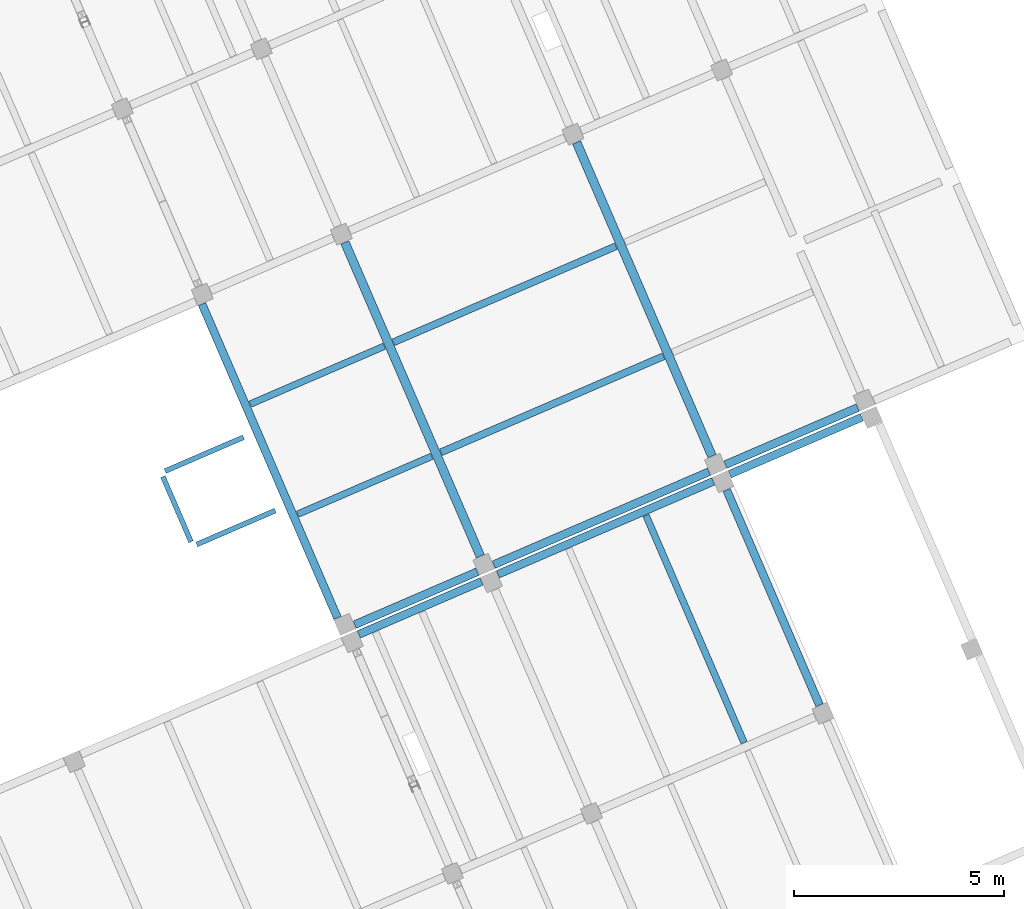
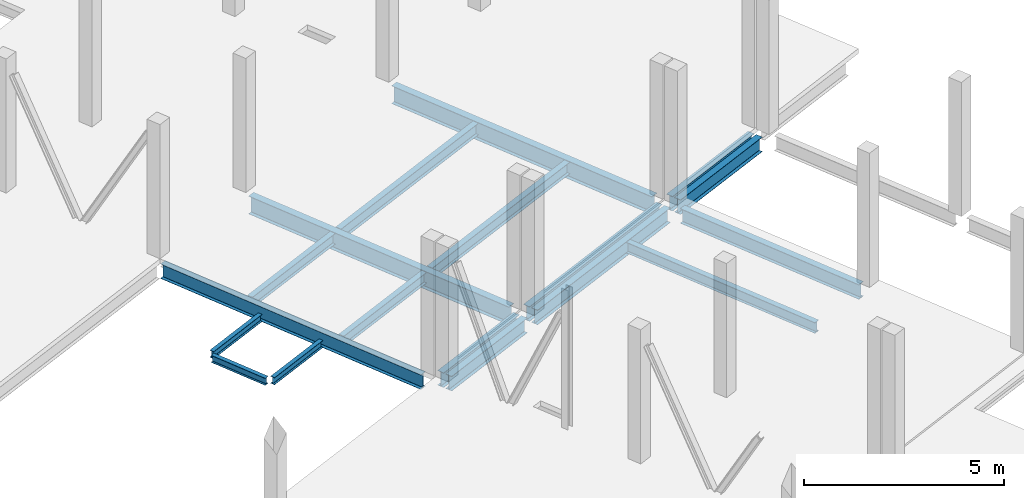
# One storey, part 18 of 24: 18 beams.
"""IFC4 building model written with IfcOpenShell, lengths in metres."""

from ifc_helpers import new_model, entity, si_unit, converted_unit, derived_unit, direction, frame, origin, place, context, subcontext, project, spatial, line, arc, indexed_curve, outline, extrude, source, transform, mapped, material, type_object, type_shapes, element, save


model = new_model("IFC4")

# Units and contexts
model_context = context("Model", 3, precision=1e-05, world=origin(), true_north=direction((6.12323399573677e-17, 1.0)))
body_context = subcontext(model_context, "Body", "Model", "MODEL_VIEW")
ifc_project = project(units=[si_unit("LENGTHUNIT", "METRE"), si_unit("AREAUNIT", "SQUARE_METRE"), si_unit("VOLUMEUNIT", "CUBIC_METRE"), converted_unit("PLANEANGLEUNIT", "DEGREE", entity("IfcPlaneAngleMeasure", 0.0174532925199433), si_unit("PLANEANGLEUNIT", "RADIAN"), dimensions=[0, 0, 0, 0, 0, 0, 0]), si_unit("MASSUNIT", "GRAM", prefix="KILO"), derived_unit("MOMENTOFINERTIAUNIT", [(si_unit("LENGTHUNIT", "METRE"), 4)]), derived_unit("LINEARFORCEUNIT", [(si_unit("MASSUNIT", "GRAM", prefix="KILO"), 1), (si_unit("TIMEUNIT", "SECOND"), -2)]), derived_unit("WARPINGCONSTANTUNIT", [(si_unit("LENGTHUNIT", "METRE"), 6)]), derived_unit("THERMALTRANSMITTANCEUNIT", [(si_unit("MASSUNIT", "GRAM", prefix="KILO"), 1), (si_unit("THERMODYNAMICTEMPERATUREUNIT", "KELVIN"), -1), (si_unit("TIMEUNIT", "SECOND"), -3)]), derived_unit("USERDEFINED", [(si_unit("MASSUNIT", "GRAM", prefix="KILO"), 1), (si_unit("TIMEUNIT", "SECOND"), -2), (si_unit("THERMODYNAMICTEMPERATUREUNIT", "KELVIN"), -1)]), derived_unit("THERMALRESISTANCEUNIT", [(si_unit("MASSUNIT", "GRAM", prefix="KILO"), -1), (si_unit("TIMEUNIT", "SECOND"), 3), (si_unit("THERMODYNAMICTEMPERATUREUNIT", "KELVIN"), 1)])], contexts=[model_context])

# Site, building, storey
site_placement = place(None, origin())
site = spatial("IfcSite", under=ifc_project, at=site_placement, Name="Default", CompositionType="ELEMENT")
building_placement = place(site_placement, frame((12.6613425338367, -82.5732315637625, 317.15), z_axis=(0.0, 0.0, 1.0), x_axis=(-0.396377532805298, 0.918087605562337, 0.0)))
building = spatial("IfcBuilding", under=site, at=building_placement, Name="CESFAM Coyhaique", CompositionType="ELEMENT")
storey_placement = place(building_placement, frame((0.0, 0.0, 4.20000000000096)))
storey = spatial("IfcBuildingStorey", under=building, at=storey_placement, Name="Nivel 2", CompositionType="ELEMENT", Elevation=4.20000000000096)

# Beams
ifc_material = material(Name="Steel, 45-345", Category="Metal")
beam_type_1 = type_object("IfcBeamType", Name="M_W Shapes:W450X190mm", PredefinedType="BEAM", material=ifc_material)
shared_shape_1 = source(origin(), body_context, "Body", "SweptSolid", [
    extrude(outline(indexed_curve([(-0.0949999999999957, -0.225000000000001), (0.0950000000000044, -0.225000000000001), (0.0950000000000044, -0.21535), (0.0105700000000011, -0.21535), (0.00516063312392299, -0.213109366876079), (0.0029200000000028, -0.2077), (0.0029200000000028, 0.207699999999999), (0.00516063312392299, 0.213109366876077), (0.0105700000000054, 0.21535), (0.0950000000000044, 0.21535), (0.0950000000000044, 0.224999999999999), (-0.0949999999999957, 0.224999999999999), (-0.0949999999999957, 0.21535), (-0.0105699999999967, 0.215349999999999), (-0.00516063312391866, 0.213109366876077), (-0.00291999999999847, 0.207699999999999), (-0.00291999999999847, -0.2077), (-0.00516063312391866, -0.213109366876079), (-0.0105699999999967, -0.21535), (-0.0949999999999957, -0.21535)], segments=[line(1, 2, 3, 4), arc(4, 5, 6), line(6, 7), arc(7, 8, 9), line(9, 10, 11, 12, 13, 14), arc(14, 15, 16), line(16, 17), arc(17, 18, 19), line(19, 20, 1)], self_intersect=False)), frame((34.868853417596, -14.9844495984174, 3.82500000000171), z_axis=(0.0, 1.0, 0.0), x_axis=(-1.0, 0.0, 0.0)), (0.0, 0.0, 1.0), 3.1746),
])
type_shapes(beam_type_1, [shared_shape_1])
beam_1_placement = place(storey_placement, frame((0.0, 0.0, -4.20000000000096)))
element("IfcBeam", 1, at=beam_1_placement, inside=storey, type_object=beam_type_1, Name="M_W Shapes:W450X190mm", ObjectType="M_W Shapes:W450X190mm", PredefinedType="BEAM", context=body_context, shape_type="MappedRepresentation", body=[
    mapped(shared_shape_1, transform((0.0, 0.0, 0.0), scale=1.0)),
])
beam_type_2 = type_object("IfcBeamType", Name="M_W Shapes:W450X190mm", PredefinedType="BEAM", material=ifc_material)
shared_shape_2 = source(origin(), body_context, "Body", "SweptSolid", [
    extrude(outline(indexed_curve([(-0.225, -0.0950000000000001), (-0.215350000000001, -0.0949999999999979), (-0.21535, -0.0105699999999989), (-0.213109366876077, -0.00516063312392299), (-0.2077, -0.00291999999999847), (0.207699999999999, -0.00291999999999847), (0.213109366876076, -0.00516063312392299), (0.215349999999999, -0.0105699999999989), (0.215349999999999, -0.0950000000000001), (0.225, -0.0950000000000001), (0.225, 0.0950000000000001), (0.215349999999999, 0.0950000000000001), (0.215349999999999, 0.0105700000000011), (0.213109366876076, 0.00516063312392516), (0.207699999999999, 0.00292000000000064), (-0.2077, 0.00292000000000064), (-0.213109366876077, 0.00516063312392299), (-0.215350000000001, 0.0105700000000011), (-0.215350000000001, 0.0950000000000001), (-0.225, 0.0950000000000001)], segments=[line(1, 2, 3), arc(3, 4, 5), line(5, 6), arc(6, 7, 8), line(8, 9, 10, 11, 12, 13), arc(13, 14, 15), line(15, 16), arc(16, 17, 18), line(18, 19, 20, 1)], self_intersect=False)), frame((35.4315534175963, -11.4971495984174, 3.82500000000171), z_axis=(1.0, 0.0, 0.0), x_axis=(0.0, 0.0, -1.0)), (0.0, 0.0, 1.0), 8.1246),
])
type_shapes(beam_type_2, [shared_shape_2])
beam_2_placement = place(storey_placement, frame((0.0, 0.0, -4.20000000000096)))
element("IfcBeam", 2, at=beam_2_placement, inside=storey, type_object=beam_type_2, Name="M_W Shapes:W450X190mm", ObjectType="M_W Shapes:W450X190mm", PredefinedType="BEAM", context=body_context, shape_type="MappedRepresentation", body=[
    mapped(shared_shape_2, transform((0.0, 0.0, 0.0), scale=1.0)),
])
beam_type_3 = type_object("IfcBeamType", Name="M_W Shapes:W550X210mm", PredefinedType="BEAM", material=ifc_material)
shared_shape_3 = source(origin(), body_context, "Body", "SweptSolid", [
    extrude(outline(indexed_curve([(-0.274999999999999, -0.105000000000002), (-0.26535, -0.105000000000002), (-0.265349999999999, -0.0105700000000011), (-0.263109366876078, -0.00516063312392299), (-0.2577, -0.0029200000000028), (0.2577, -0.0029200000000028), (0.263109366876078, -0.00516063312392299), (0.26535, -0.0105700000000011), (0.26535, -0.105000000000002), (0.275, -0.105000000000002), (0.275, 0.104999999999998), (0.26535, 0.104999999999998), (0.265349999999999, 0.0105699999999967), (0.263109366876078, 0.00516063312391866), (0.2577, 0.00291999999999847), (-0.2577, 0.00291999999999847), (-0.263109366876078, 0.00516063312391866), (-0.26535, 0.0105699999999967), (-0.26535, 0.104999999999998), (-0.274999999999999, 0.104999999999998)], segments=[line(1, 2, 3), arc(3, 4, 5), line(5, 6), arc(6, 7, 8), line(8, 9, 10, 11, 12, 13), arc(13, 14, 15), line(15, 16), arc(16, 17, 18), line(18, 19, 20, 1)], self_intersect=False)), frame((35.4315534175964, -21.197149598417, 3.77500000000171), z_axis=(1.0, 0.0, 0.0), x_axis=(0.0, 0.0, -1.0)), (0.0, 0.0, 1.0), 8.1246),
])
type_shapes(beam_type_3, [shared_shape_3])
beam_3_placement = place(storey_placement, frame((0.0, 0.0, -4.20000000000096)))
element("IfcBeam", 3, at=beam_3_placement, inside=storey, type_object=beam_type_3, Name="M_W Shapes:W550X210mm", ObjectType="M_W Shapes:W550X210mm", PredefinedType="BEAM", context=body_context, shape_type="MappedRepresentation", body=[
    mapped(shared_shape_3, transform((0.0, 0.0, 0.0), scale=1.0)),
])
beam_type_4 = type_object("IfcBeamType", Name="M_W Shapes:W450X190mm", PredefinedType="BEAM", material=ifc_material)
shared_shape_4 = source(origin(), body_context, "Body", "SweptSolid", [
    extrude(outline(indexed_curve([(-0.225, -0.0949999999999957), (-0.215350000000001, -0.0949999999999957), (-0.21535, -0.0105699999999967), (-0.213109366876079, -0.00516063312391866), (-0.2077, -0.00291999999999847), (0.207699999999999, -0.00291999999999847), (0.213109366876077, -0.00516063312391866), (0.215349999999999, -0.0105699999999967), (0.215349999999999, -0.0949999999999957), (0.225, -0.0949999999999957), (0.225, 0.0950000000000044), (0.215349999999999, 0.0950000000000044), (0.215349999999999, 0.0105700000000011), (0.213109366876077, 0.00516063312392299), (0.207699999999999, 0.0029200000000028), (-0.2077, 0.0029200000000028), (-0.213109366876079, 0.00516063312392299), (-0.215350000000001, 0.0105700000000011), (-0.215350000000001, 0.0950000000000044), (-0.225, 0.0950000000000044)], segments=[line(1, 2, 3), arc(3, 4, 5), line(5, 6), arc(6, 7, 8), line(8, 9, 10, 11, 12, 13), arc(13, 14, 15), line(15, 16), arc(16, 17, 18), line(18, 19, 20, 1)], self_intersect=False)), frame((28.9815534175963, -21.197149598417, 3.82500000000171), z_axis=(1.0, 0.0, 0.0), x_axis=(0.0, 0.0, -1.0)), (0.0, 0.0, 1.0), 5.5746),
])
type_shapes(beam_type_4, [shared_shape_4])
beam_4_placement = place(storey_placement, frame((0.0, 0.0, -4.20000000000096)))
element("IfcBeam", 4, at=beam_4_placement, inside=storey, type_object=beam_type_4, Name="M_W Shapes:W450X190mm", ObjectType="M_W Shapes:W450X190mm", PredefinedType="BEAM", context=body_context, shape_type="MappedRepresentation", body=[
    mapped(shared_shape_4, transform((0.0, 0.0, 0.0), scale=1.0)),
])
beam_type_5 = type_object("IfcBeamType", Name="M_W Shapes:W450X190mm", PredefinedType="BEAM", material=ifc_material)
shared_shape_5 = source(origin(), body_context, "Body", "SweptSolid", [
    extrude(outline(indexed_curve([(-0.0950000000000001, -0.225000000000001), (0.0950000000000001, -0.225000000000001), (0.0950000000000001, -0.21535), (0.0105699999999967, -0.21535), (0.00516063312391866, -0.213109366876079), (0.00291999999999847, -0.2077), (0.00291999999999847, 0.207699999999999), (0.00516063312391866, 0.213109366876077), (0.0105700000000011, 0.21535), (0.0950000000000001, 0.21535), (0.0950000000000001, 0.224999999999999), (-0.0950000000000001, 0.224999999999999), (-0.0950000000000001, 0.21535), (-0.0105700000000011, 0.215349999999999), (-0.00516063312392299, 0.213109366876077), (-0.0029200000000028, 0.207699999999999), (-0.0029200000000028, -0.2077), (-0.00516063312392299, -0.213109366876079), (-0.0105700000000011, -0.21535), (-0.0950000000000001, -0.21535)], segments=[line(1, 2, 3, 4), arc(4, 5, 6), line(6, 7), arc(7, 8, 9), line(9, 10, 11, 12, 13, 14), arc(14, 15, 16), line(16, 17), arc(17, 18, 19), line(19, 20, 1)], self_intersect=False)), frame((34.8688534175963, -24.8344495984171, 3.82500000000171), z_axis=(0.0, 1.0, 0.0), x_axis=(-1.0, 0.0, 0.0)), (0.0, 0.0, 1.0), 3.4246),
])
type_shapes(beam_type_5, [shared_shape_5])
beam_5_placement = place(storey_placement, frame((0.0, 0.0, -4.20000000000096)))
element("IfcBeam", 5, at=beam_5_placement, inside=storey, type_object=beam_type_5, Name="M_W Shapes:W450X190mm", ObjectType="M_W Shapes:W450X190mm", PredefinedType="BEAM", context=body_context, shape_type="MappedRepresentation", body=[
    mapped(shared_shape_5, transform((0.0, 0.0, 0.0), scale=1.0)),
])
beam_type_6 = type_object("IfcBeamType", Name="M_W Shapes:W450X190mm", PredefinedType="BEAM", material=ifc_material)
shared_shape_6 = source(origin(), body_context, "Body", "SweptSolid", [
    extrude(outline(indexed_curve([(-0.0950000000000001, -0.225000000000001), (0.0950000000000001, -0.225000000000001), (0.0950000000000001, -0.21535), (0.0105699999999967, -0.21535), (0.00516063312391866, -0.213109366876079), (0.00291999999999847, -0.2077), (0.00291999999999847, 0.207699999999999), (0.00516063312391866, 0.213109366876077), (0.0105699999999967, 0.21535), (0.0950000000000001, 0.21535), (0.0950000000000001, 0.224999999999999), (-0.0950000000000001, 0.224999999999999), (-0.0950000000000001, 0.21535), (-0.0105700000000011, 0.215349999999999), (-0.00516063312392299, 0.213109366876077), (-0.0029200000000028, 0.207699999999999), (-0.0029200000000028, -0.2077), (-0.00516063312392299, -0.213109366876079), (-0.0105700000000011, -0.21535), (-0.0950000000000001, -0.21535)], segments=[line(1, 2, 3, 4), arc(4, 5, 6), line(6, 7), arc(7, 8, 9), line(9, 10, 11, 12, 13, 14), arc(14, 15, 16), line(16, 17), arc(17, 18, 19), line(19, 20, 1)], self_intersect=False)), frame((34.8688534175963, -20.9844495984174, 3.82500000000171), z_axis=(0.0, 1.0, 0.0), x_axis=(-1.0, 0.0, 0.0)), (0.0, 0.0, 1.0), 5.5746),
])
type_shapes(beam_type_6, [shared_shape_6])
beam_6_placement = place(storey_placement, frame((0.0, 0.0, -4.20000000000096)))
element("IfcBeam", 6, at=beam_6_placement, inside=storey, type_object=beam_type_6, Name="M_W Shapes:W450X190mm", ObjectType="M_W Shapes:W450X190mm", PredefinedType="BEAM", context=body_context, shape_type="MappedRepresentation", body=[
    mapped(shared_shape_6, transform((0.0, 0.0, 0.0), scale=1.0)),
])
beam_type_7 = type_object("IfcBeamType", Name="M_W Shapes:W550X210mm", PredefinedType="BEAM", material=ifc_material)
shared_shape_7 = source(origin(), body_context, "Body", "SweptSolid", [
    extrude(outline(indexed_curve([(-0.274999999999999, -0.104999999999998), (-0.26535, -0.104999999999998), (-0.26535, -0.0105699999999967), (-0.263109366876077, -0.00516063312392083), (-0.2577, -0.0029199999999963), (0.2577, -0.0029199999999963), (0.263109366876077, -0.00516063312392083), (0.26535, -0.0105699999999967), (0.26535, -0.104999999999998), (0.275, -0.104999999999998), (0.275, 0.105000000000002), (0.26535, 0.105000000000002), (0.26535, 0.0105700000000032), (0.263109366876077, 0.00516063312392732), (0.2577, 0.0029200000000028), (-0.2577, 0.0029200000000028), (-0.263109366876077, 0.00516063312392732), (-0.26535, 0.0105700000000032), (-0.26535, 0.105000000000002), (-0.274999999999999, 0.105000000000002)], segments=[line(1, 2, 3), arc(3, 4, 5), line(5, 6), arc(6, 7, 8), line(8, 9, 10, 11, 12, 13), arc(13, 14, 15), line(15, 16), arc(16, 17, 18), line(18, 19, 20, 1)], self_intersect=False)), frame((35.4315534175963, -15.1971495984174, 3.77500000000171), z_axis=(1.0, 0.0, 0.0), x_axis=(0.0, 0.0, -1.0)), (0.0, 0.0, 1.0), 8.1246),
])
type_shapes(beam_type_7, [shared_shape_7])
beam_7_placement = place(storey_placement, frame((0.0, 0.0, -4.20000000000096)))
element("IfcBeam", 7, at=beam_7_placement, inside=storey, type_object=beam_type_7, Name="M_W Shapes:W550X210mm", ObjectType="M_W Shapes:W550X210mm", PredefinedType="BEAM", context=body_context, shape_type="MappedRepresentation", body=[
    mapped(shared_shape_7, transform((0.0, 0.0, 0.0), scale=1.0)),
])
beam_type_8 = type_object("IfcBeamType", Name="M_W Shapes:W450X190mm", PredefinedType="BEAM", material=ifc_material)
shared_shape_8 = source(origin(), body_context, "Body", "SweptSolid", [
    extrude(outline(indexed_curve([(-0.0949999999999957, -0.225000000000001), (0.0950000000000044, -0.225000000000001), (0.0950000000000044, -0.21535), (0.0105700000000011, -0.21535), (0.00516063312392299, -0.213109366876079), (0.0029200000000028, -0.2077), (0.0029200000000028, 0.207699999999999), (0.00516063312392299, 0.213109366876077), (0.0105700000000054, 0.21535), (0.0950000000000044, 0.21535), (0.0950000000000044, 0.224999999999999), (-0.0949999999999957, 0.224999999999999), (-0.0949999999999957, 0.21535), (-0.0105699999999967, 0.215349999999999), (-0.00516063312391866, 0.213109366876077), (-0.00291999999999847, 0.207699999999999), (-0.00291999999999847, -0.2077), (-0.00516063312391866, -0.213109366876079), (-0.0105699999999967, -0.21535), (-0.0949999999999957, -0.21535)], segments=[line(1, 2, 3, 4), arc(4, 5, 6), line(6, 7), arc(7, 8, 9), line(9, 10, 11, 12, 13, 14), arc(14, 15, 16), line(16, 17), arc(17, 18, 19), line(19, 20, 1)], self_intersect=False)), frame((35.1188534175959, -14.9844495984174, 3.82500000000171), z_axis=(0.0, 1.0, 0.0), x_axis=(-1.0, 0.0, 0.0)), (0.0, 0.0, 1.0), 3.1746),
])
type_shapes(beam_type_8, [shared_shape_8])
beam_8_placement = place(storey_placement, frame((0.0, 0.0, -4.20000000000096)))
element("IfcBeam", 8, at=beam_8_placement, inside=storey, type_object=beam_type_8, Name="M_W Shapes:W450X190mm", ObjectType="M_W Shapes:W450X190mm", PredefinedType="BEAM", context=body_context, shape_type="MappedRepresentation", body=[
    mapped(shared_shape_8, transform((0.0, 0.0, 0.0), scale=1.0)),
])
beam_type_9 = type_object("IfcBeamType", Name="M_W Shapes:W450X190mm", PredefinedType="BEAM", material=ifc_material)
shared_shape_9 = source(origin(), body_context, "Body", "SweptSolid", [
    extrude(outline(indexed_curve([(-0.0949999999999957, -0.225000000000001), (0.0950000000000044, -0.225000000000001), (0.0950000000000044, -0.21535), (0.0105700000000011, -0.21535), (0.00516063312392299, -0.213109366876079), (0.0029200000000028, -0.2077), (0.0029200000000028, 0.207699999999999), (0.00516063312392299, 0.213109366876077), (0.0105700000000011, 0.21535), (0.0950000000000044, 0.21535), (0.0950000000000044, 0.224999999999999), (-0.0949999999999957, 0.224999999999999), (-0.0949999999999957, 0.21535), (-0.0105699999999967, 0.215349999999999), (-0.00516063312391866, 0.213109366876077), (-0.00291999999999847, 0.207699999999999), (-0.00291999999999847, -0.2077), (-0.00516063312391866, -0.213109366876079), (-0.0105699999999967, -0.21535), (-0.0949999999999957, -0.21535)], segments=[line(1, 2, 3, 4), arc(4, 5, 6), line(6, 7), arc(7, 8, 9), line(9, 10, 11, 12, 13, 14), arc(14, 15, 16), line(16, 17), arc(17, 18, 19), line(19, 20, 1)], self_intersect=False)), frame((35.1188534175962, -20.9844495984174, 3.82500000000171), z_axis=(0.0, 1.0, 0.0), x_axis=(-1.0, 0.0, 0.0)), (0.0, 0.0, 1.0), 5.5746),
])
type_shapes(beam_type_9, [shared_shape_9])
beam_9_placement = place(storey_placement, frame((0.0, 0.0, -4.20000000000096)))
element("IfcBeam", 9, at=beam_9_placement, inside=storey, type_object=beam_type_9, Name="M_W Shapes:W450X190mm", ObjectType="M_W Shapes:W450X190mm", PredefinedType="BEAM", context=body_context, shape_type="MappedRepresentation", body=[
    mapped(shared_shape_9, transform((0.0, 0.0, 0.0), scale=1.0)),
])
beam_type_10 = type_object("IfcBeamType", Name="M_W Shapes:W450X190mm", PredefinedType="BEAM", material=ifc_material)
shared_shape_10 = source(origin(), body_context, "Body", "SweptSolid", [
    extrude(outline(indexed_curve([(-0.0950000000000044, -0.225000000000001), (0.0949999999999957, -0.225000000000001), (0.0949999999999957, -0.21535), (0.0105699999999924, -0.21535), (0.00516063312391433, -0.213109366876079), (0.00291999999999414, -0.2077), (0.00291999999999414, 0.207699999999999), (0.00516063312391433, 0.213109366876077), (0.0105699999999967, 0.21535), (0.0949999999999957, 0.21535), (0.0949999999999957, 0.224999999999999), (-0.0950000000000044, 0.224999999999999), (-0.0950000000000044, 0.21535), (-0.0105700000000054, 0.215349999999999), (-0.00516063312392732, 0.213109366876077), (-0.00292000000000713, 0.207699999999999), (-0.00292000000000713, -0.2077), (-0.00516063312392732, -0.213109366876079), (-0.0105700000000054, -0.21535), (-0.0950000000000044, -0.21535)], segments=[line(1, 2, 3, 4), arc(4, 5, 6), line(6, 7), arc(7, 8, 9), line(9, 10, 11, 12, 13, 14), arc(14, 15, 16), line(16, 17), arc(17, 18, 19), line(19, 20, 1)], self_intersect=False)), frame((35.1188534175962, -24.8344495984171, 3.82500000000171), z_axis=(0.0, 1.0, 0.0), x_axis=(-1.0, 0.0, 0.0)), (0.0, 0.0, 1.0), 3.4246),
])
type_shapes(beam_type_10, [shared_shape_10])
beam_10_placement = place(storey_placement, frame((0.0, 0.0, -4.20000000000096)))
element("IfcBeam", 10, at=beam_10_placement, inside=storey, type_object=beam_type_10, Name="M_W Shapes:W450X190mm", ObjectType="M_W Shapes:W450X190mm", PredefinedType="BEAM", context=body_context, shape_type="MappedRepresentation", body=[
    mapped(shared_shape_10, transform((0.0, 0.0, 0.0), scale=1.0)),
])
beam_type_11 = type_object("IfcBeamType", Name="M_W Shapes:W330X160mm", PredefinedType="BEAM", material=ifc_material)
shared_shape_11 = source(origin(), body_context, "Body", "SweptSolid", [
    extrude(outline(indexed_curve([(-0.0800000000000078, -0.165), (0.0799999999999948, -0.165), (0.0799999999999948, -0.15535), (0.0105699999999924, -0.155349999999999), (0.00516063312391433, -0.153109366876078), (0.00291999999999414, -0.1477), (0.00291999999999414, 0.1477), (0.00516063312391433, 0.153109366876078), (0.0105699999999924, 0.15535), (0.0799999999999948, 0.15535), (0.0799999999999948, 0.164999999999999), (-0.0800000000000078, 0.164999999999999), (-0.0800000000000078, 0.15535), (-0.0105700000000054, 0.155349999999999), (-0.00516063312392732, 0.153109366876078), (-0.00292000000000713, 0.1477), (-0.00292000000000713, -0.1477), (-0.00516063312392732, -0.153109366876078), (-0.0105700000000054, -0.15535), (-0.0800000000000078, -0.15535)], segments=[line(1, 2, 3, 4), arc(4, 5, 6), line(6, 7), arc(7, 8, 9), line(9, 10, 11, 12, 13, 14), arc(14, 15, 16), line(16, 17), arc(17, 18, 19), line(19, 20, 1)], self_intersect=False)), frame((38.068777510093, -15.0794495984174, 3.88500000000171), z_axis=(0.0, 1.0, 0.0), x_axis=(-1.0, 0.0, 0.0)), (0.0, 0.0, 1.0), 3.4746),
])
type_shapes(beam_type_11, [shared_shape_11])
beam_11_placement = place(storey_placement, frame((0.0, 0.0, -4.20000000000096)))
element("IfcBeam", 11, at=beam_11_placement, inside=storey, type_object=beam_type_11, Name="M_W Shapes:W330X160mm", ObjectType="M_W Shapes:W330X160mm", PredefinedType="BEAM", context=body_context, shape_type="MappedRepresentation", body=[
    mapped(shared_shape_11, transform((0.0, 0.0, 0.0), scale=1.0)),
])
beam_type_12 = type_object("IfcBeamType", Name="M_W Shapes:W360X170mm", PredefinedType="BEAM", material=ifc_material)
shared_shape_12 = source(origin(), body_context, "Body", "SweptSolid", [
    extrude(outline(indexed_curve([(-0.084999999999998, -0.180000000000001), (0.0850000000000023, -0.180000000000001), (0.0850000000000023, -0.17035), (0.0105700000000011, -0.17035), (0.00516063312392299, -0.168109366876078), (0.0029200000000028, -0.1627), (0.0029200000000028, 0.162699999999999), (0.00516063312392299, 0.168109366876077), (0.0105700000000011, 0.17035), (0.0850000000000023, 0.17035), (0.0850000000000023, 0.179999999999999), (-0.084999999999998, 0.179999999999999), (-0.084999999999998, 0.17035), (-0.0105699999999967, 0.170349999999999), (-0.00516063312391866, 0.168109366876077), (-0.00291999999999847, 0.1627), (-0.00291999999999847, -0.1627), (-0.00516063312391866, -0.168109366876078), (-0.0105699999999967, -0.17035), (-0.084999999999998, -0.17035)], segments=[line(1, 2, 3, 4), arc(4, 5, 6), line(6, 7), arc(7, 8, 9), line(9, 10, 11, 12, 13, 14), arc(14, 15, 16), line(16, 17), arc(17, 18, 19), line(19, 20, 1)], self_intersect=False)), frame((38.068777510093, -21.0794495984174, 3.87000000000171), z_axis=(0.0, 1.0, 0.0), x_axis=(-1.0, 0.0, 0.0)), (0.0, 0.0, 1.0), 5.7646),
])
type_shapes(beam_type_12, [shared_shape_12])
beam_12_placement = place(storey_placement, frame((0.0, 0.0, -4.20000000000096)))
element("IfcBeam", 12, at=beam_12_placement, inside=storey, type_object=beam_type_12, Name="M_W Shapes:W360X170mm", ObjectType="M_W Shapes:W360X170mm", PredefinedType="BEAM", context=body_context, shape_type="MappedRepresentation", body=[
    mapped(shared_shape_12, transform((0.0, 0.0, 0.0), scale=1.0)),
])
beam_type_13 = type_object("IfcBeamType", Name="M_W Shapes:W330X160mm", PredefinedType="BEAM", material=ifc_material)
shared_shape_13 = source(origin(), body_context, "Body", "SweptSolid", [
    extrude(outline(indexed_curve([(-0.0799999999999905, -0.165), (0.0800000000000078, -0.165), (0.0800000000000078, -0.15535), (0.0105700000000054, -0.15535), (0.00516063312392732, -0.153109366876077), (0.00292000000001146, -0.1477), (0.0029200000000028, 0.1477), (0.00516063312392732, 0.153109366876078), (0.0105700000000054, 0.15535), (0.0800000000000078, 0.15535), (0.0800000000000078, 0.164999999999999), (-0.0799999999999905, 0.164999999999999), (-0.0799999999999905, 0.15535), (-0.0105699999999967, 0.15535), (-0.00516063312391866, 0.153109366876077), (-0.00291999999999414, 0.1477), (-0.00291999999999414, -0.1477), (-0.00516063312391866, -0.153109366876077), (-0.0105699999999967, -0.15535), (-0.0799999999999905, -0.15535)], segments=[line(1, 2, 3, 4), arc(4, 5, 6), line(6, 7), arc(7, 8, 9), line(9, 10, 11, 12, 13, 14), arc(14, 15, 16), line(16, 17), arc(17, 18, 19), line(19, 20, 1)], self_intersect=False)), frame((40.9187775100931, -15.0794495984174, 3.88500000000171), z_axis=(0.0, 1.0, 0.0), x_axis=(-1.0, 0.0, 0.0)), (0.0, 0.0, 1.0), 3.4746),
])
type_shapes(beam_type_13, [shared_shape_13])
beam_13_placement = place(storey_placement, frame((0.0, 0.0, -4.20000000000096)))
element("IfcBeam", 13, at=beam_13_placement, inside=storey, type_object=beam_type_13, Name="M_W Shapes:W330X160mm", ObjectType="M_W Shapes:W330X160mm", PredefinedType="BEAM", context=body_context, shape_type="MappedRepresentation", body=[
    mapped(shared_shape_13, transform((0.0, 0.0, 0.0), scale=1.0)),
])
beam_type_14 = type_object("IfcBeamType", Name="M_W Shapes:W360X170mm", PredefinedType="BEAM", material=ifc_material)
shared_shape_14 = source(origin(), body_context, "Body", "SweptSolid", [
    extrude(outline(indexed_curve([(-0.084999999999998, -0.180000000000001), (0.084999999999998, -0.180000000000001), (0.084999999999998, -0.17035), (0.0105699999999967, -0.17035), (0.00516063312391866, -0.168109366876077), (0.0029200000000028, -0.1627), (0.00291999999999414, 0.162699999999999), (0.00516063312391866, 0.168109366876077), (0.0105699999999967, 0.17035), (0.084999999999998, 0.17035), (0.084999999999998, 0.179999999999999), (-0.084999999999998, 0.179999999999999), (-0.084999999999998, 0.17035), (-0.0105700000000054, 0.170349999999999), (-0.00516063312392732, 0.168109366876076), (-0.0029200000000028, 0.1627), (-0.0029200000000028, -0.1627), (-0.00516063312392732, -0.168109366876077), (-0.0105700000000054, -0.17035), (-0.084999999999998, -0.17035)], segments=[line(1, 2, 3, 4), arc(4, 5, 6), line(6, 7), arc(7, 8, 9), line(9, 10, 11, 12, 13, 14), arc(14, 15, 16), line(16, 17), arc(17, 18, 19), line(19, 20, 1)], self_intersect=False)), frame((40.918777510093, -21.0794495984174, 3.87000000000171), z_axis=(0.0, 1.0, 0.0), x_axis=(-1.0, 0.0, 0.0)), (0.0, 0.0, 1.0), 5.7646),
])
type_shapes(beam_type_14, [shared_shape_14])
beam_14_placement = place(storey_placement, frame((0.0, 0.0, -4.20000000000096)))
element("IfcBeam", 14, at=beam_14_placement, inside=storey, type_object=beam_type_14, Name="M_W Shapes:W360X170mm", ObjectType="M_W Shapes:W360X170mm", PredefinedType="BEAM", context=body_context, shape_type="MappedRepresentation", body=[
    mapped(shared_shape_14, transform((0.0, 0.0, 0.0), scale=1.0)),
])
beam_type_15 = type_object("IfcBeamType", Name="M_W Shapes:W330X160mm", PredefinedType="BEAM", material=ifc_material)
shared_shape_15 = source(origin(), body_context, "Body", "SweptSolid", [
    extrude(outline(indexed_curve([(-0.164999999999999, -0.079999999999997), (-0.15535, -0.079999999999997), (-0.15535, -0.0105699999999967), (-0.153109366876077, -0.00516063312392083), (-0.1477, -0.0029199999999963), (0.1477, -0.0029199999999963), (0.153109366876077, -0.00516063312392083), (0.15535, -0.0105699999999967), (0.15535, -0.079999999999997), (0.165, -0.079999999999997), (0.165, 0.0800000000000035), (0.15535, 0.0800000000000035), (0.15535, 0.0105700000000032), (0.153109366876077, 0.00516063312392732), (0.1477, 0.0029200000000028), (-0.1477, 0.0029200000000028), (-0.153109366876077, 0.00516063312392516), (-0.15535, 0.0105700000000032), (-0.15535, 0.0800000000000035), (-0.164999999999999, 0.0800000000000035)], segments=[line(1, 2, 3), arc(3, 4, 5), line(5, 6), arc(6, 7, 8), line(8, 9, 10, 11, 12, 13), arc(13, 14, 15), line(15, 16), arc(16, 17, 18), line(18, 19, 20, 1)], self_intersect=False)), frame((28.8765534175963, -19.197149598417, 3.88500000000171), z_axis=(1.0, 0.0, 0.0), x_axis=(0.0, 0.0, -1.0)), (0.0, 0.0, 1.0), 5.88460000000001),
])
type_shapes(beam_type_15, [shared_shape_15])
beam_15_placement = place(storey_placement, frame((0.0, 0.0, -4.20000000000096)))
element("IfcBeam", 15, at=beam_15_placement, inside=storey, type_object=beam_type_15, Name="M_W Shapes:W330X160mm", ObjectType="M_W Shapes:W330X160mm", PredefinedType="BEAM", context=body_context, shape_type="MappedRepresentation", body=[
    mapped(shared_shape_15, transform((0.0, 0.0, 0.0), scale=1.0)),
])
beam_type_16 = type_object("IfcBeamType", Name="M_W Shapes:W220X120mm", PredefinedType="BEAM", material=ifc_material)
shared_shape_16 = source(origin(), body_context, "Body", "SweptSolid", [
    extrude(outline(indexed_curve([(-0.109999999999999, -0.0600000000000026), (-0.100349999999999, -0.0600000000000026), (-0.10035, -0.0105700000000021), (-0.0981093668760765, -0.00516063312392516), (-0.0926999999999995, -0.0029200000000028), (0.0927, -0.0029200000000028), (0.098109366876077, -0.00516063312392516), (0.10035, -0.0105700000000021), (0.10035, -0.0600000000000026), (0.110000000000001, -0.0600000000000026), (0.110000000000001, 0.0599999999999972), (0.10035, 0.0599999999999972), (0.10035, 0.0105699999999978), (0.098109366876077, 0.00516063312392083), (0.0927, 0.00291999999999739), (-0.0926999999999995, 0.00291999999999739), (-0.098109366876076, 0.00516063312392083), (-0.100349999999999, 0.0105699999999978), (-0.100349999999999, 0.0599999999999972), (-0.109999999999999, 0.0599999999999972)], segments=[line(1, 2, 3), arc(3, 4, 5), line(5, 6), arc(6, 7, 8), line(8, 9, 10, 11, 12, 13), arc(13, 14, 15), line(15, 16), arc(16, 17, 18), line(18, 19, 20, 1)], self_intersect=False)), frame((38.4718924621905, -9.01714975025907, 3.94000000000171), z_axis=(1.0, 0.0, 0.0), x_axis=(0.0, 0.0, -1.0)), (0.0, 0.0, 1.0), 1.6871),
])
type_shapes(beam_type_16, [shared_shape_16])
beam_16_placement = place(storey_placement, frame((0.0, 0.0, -4.20000000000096)))
element("IfcBeam", 16, at=beam_16_placement, inside=storey, type_object=beam_type_16, Name="M_W Shapes:W220X120mm", ObjectType="M_W Shapes:W220X120mm", PredefinedType="BEAM", context=body_context, shape_type="MappedRepresentation", body=[
    mapped(shared_shape_16, transform((0.0, 0.0, 0.0), scale=1.0)),
])
beam_type_17 = type_object("IfcBeamType", Name="M_W Shapes:W220X120mm", PredefinedType="BEAM", material=ifc_material)
shared_shape_17 = source(origin(), body_context, "Body", "SweptSolid", [
    extrude(outline(indexed_curve([(-0.059999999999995, -0.109999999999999), (0.0600000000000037, -0.109999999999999), (0.0600000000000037, -0.100349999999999), (0.0105700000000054, -0.100349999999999), (0.00516063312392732, -0.0981093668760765), (0.0029200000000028, -0.0926999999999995), (0.0029200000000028, 0.0927), (0.00516063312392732, 0.098109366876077), (0.0105700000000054, 0.10035), (0.0600000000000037, 0.10035), (0.0600000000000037, 0.110000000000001), (-0.059999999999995, 0.110000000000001), (-0.059999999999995, 0.10035), (-0.0105699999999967, 0.10035), (-0.00516063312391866, 0.098109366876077), (-0.0029200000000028, 0.0927), (-0.00291999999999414, -0.0926999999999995), (-0.00516063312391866, -0.098109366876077), (-0.0105699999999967, -0.100349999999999), (-0.059999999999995, -0.100349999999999)], segments=[line(1, 2, 3, 4), arc(4, 5, 6), line(6, 7), arc(7, 8, 9), line(9, 10, 11, 12, 13, 14), arc(14, 15, 16), line(16, 17), arc(17, 18, 19), line(19, 20, 1)], self_intersect=False)), frame((40.2590055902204, -9.11714975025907, 3.94000000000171), z_axis=(0.0, -1.0, 0.0), x_axis=(-1.0, 0.0, 0.0)), (0.0, 0.0, 1.0), 2.0323),
])
type_shapes(beam_type_17, [shared_shape_17])
beam_17_placement = place(storey_placement, frame((0.0, 0.0, -4.20000000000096)))
element("IfcBeam", 17, at=beam_17_placement, inside=storey, type_object=beam_type_17, Name="M_W Shapes:W220X120mm", ObjectType="M_W Shapes:W220X120mm", PredefinedType="BEAM", context=body_context, shape_type="MappedRepresentation", body=[
    mapped(shared_shape_17, transform((0.0, 0.0, 0.0), scale=1.0)),
])
beam_type_18 = type_object("IfcBeamType", Name="M_W Shapes:W220X120mm", PredefinedType="BEAM", material=ifc_material)
shared_shape_18 = source(origin(), body_context, "Body", "SweptSolid", [
    extrude(outline(indexed_curve([(-0.0600000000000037, -0.109999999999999), (0.059999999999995, -0.109999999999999), (0.059999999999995, -0.100349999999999), (0.0105699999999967, -0.100349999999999), (0.00516063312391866, -0.0981093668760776), (0.00291999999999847, -0.0926999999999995), (0.00291999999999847, 0.0927), (0.00516063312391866, 0.0981093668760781), (0.0105699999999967, 0.10035), (0.059999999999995, 0.10035), (0.059999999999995, 0.110000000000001), (-0.0600000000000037, 0.110000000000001), (-0.0600000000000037, 0.10035), (-0.0105700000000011, 0.100349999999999), (-0.00516063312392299, 0.0981093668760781), (-0.0029200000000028, 0.0927), (-0.0029200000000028, -0.0926999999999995), (-0.00516063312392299, -0.0981093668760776), (-0.0105700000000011, -0.100349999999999), (-0.0600000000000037, -0.100349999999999)], segments=[line(1, 2, 3, 4), arc(4, 5, 6), line(6, 7), arc(7, 8, 9), line(9, 10, 11, 12, 13, 14), arc(14, 15, 16), line(16, 17), arc(17, 18, 19), line(19, 20, 1)], self_intersect=False)), frame((38.3590943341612, -9.11714975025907, 3.94000000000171), z_axis=(0.0, -1.0, 0.0), x_axis=(-1.0, 0.0, 0.0)), (0.0, 0.0, 1.0), 2.0323),
])
type_shapes(beam_type_18, [shared_shape_18])
beam_18_placement = place(storey_placement, frame((0.0, 0.0, -4.20000000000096)))
element("IfcBeam", 18, at=beam_18_placement, inside=storey, type_object=beam_type_18, Name="M_W Shapes:W220X120mm", ObjectType="M_W Shapes:W220X120mm", PredefinedType="BEAM", context=body_context, shape_type="MappedRepresentation", body=[
    mapped(shared_shape_18, transform((0.0, 0.0, 0.0), scale=1.0)),
])

save(model, "model.ifc")
